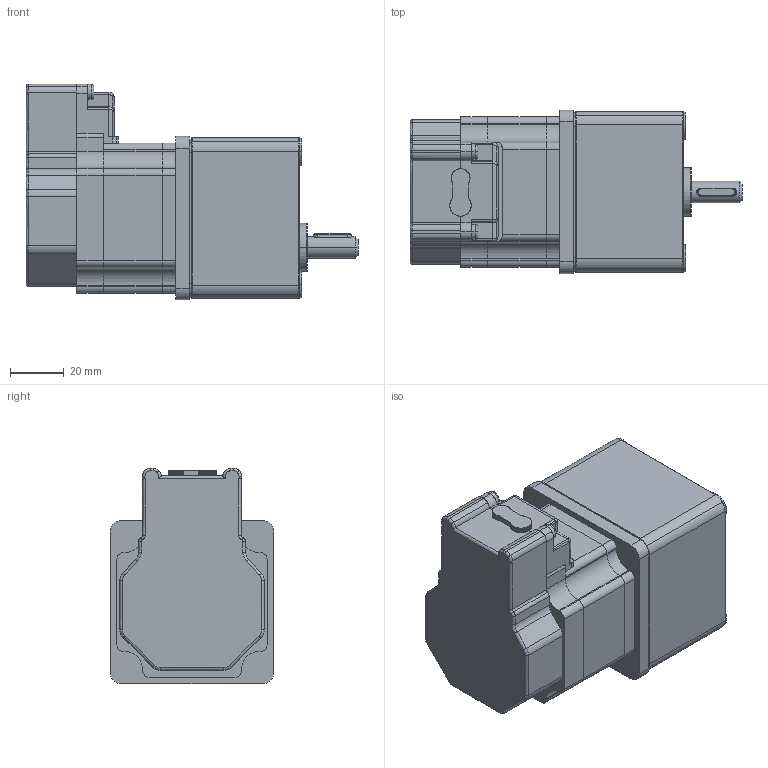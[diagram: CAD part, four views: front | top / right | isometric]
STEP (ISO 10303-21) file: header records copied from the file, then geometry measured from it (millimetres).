
FILE_DESCRIPTION(('STEP AP214'),'1');
FILE_NAME('D:\仕事\テーマ別\3DCAD\FT001 SCN5 フート\tmp0.STP',' ',(' '),(' '),'XStep 1.0',' ',' ');
FILE_SCHEMA(('automotive_design'));
Length unit declared in the file: millimetre
Bounding box: 123.92 x 61.04 x 80.52 mm (x, y, z)
Volume: 344009.7 mm3; surface area: 70865.4 mm2
Topology: 17 solids, 17 shells, 707 faces, 1879 edges, 1215 vertices
Faces by surface type: plane 347, cylinder 248, cone 58, bspline 36, torus 18
Entity records: 94958 total; most frequent: CARTESIAN_POINT 71498, ORIENTED_EDGE 3750, DIRECTION 3488, EDGE_CURVE 1875, VERTEX_POINT 1215, LINE 1198, VECTOR 1198, AXIS2_PLACEMENT_3D 1145
